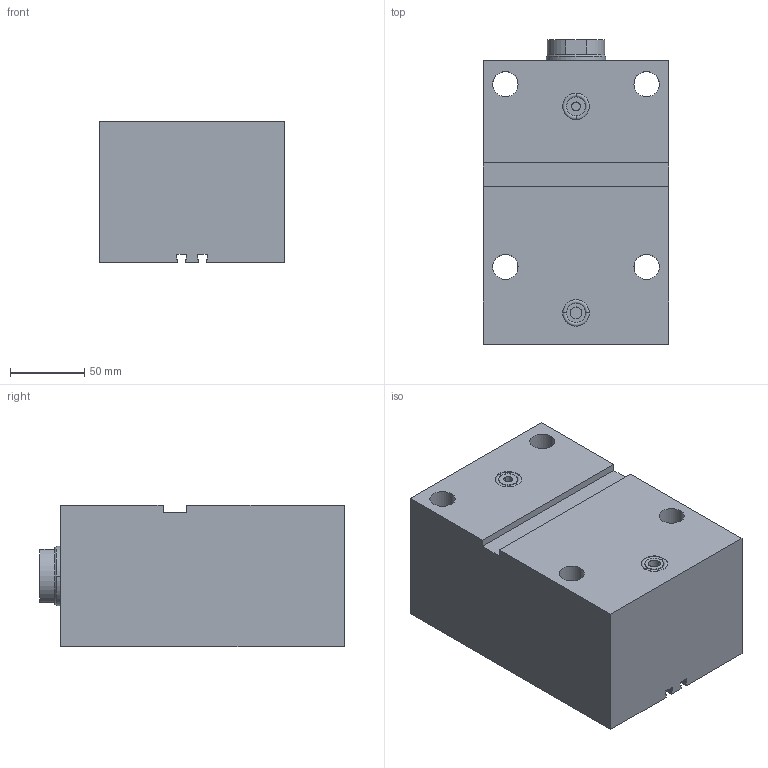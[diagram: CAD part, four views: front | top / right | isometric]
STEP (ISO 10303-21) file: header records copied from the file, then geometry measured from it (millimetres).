
FILE_DESCRIPTION (( 'STEP AP203' ), '1' );
FILE_NAME ('GERMA_Blockzylinder_703-063-100.STEP', '2016-07-26T09:38:08', ( '' ), ( '' ), 'SwSTEP 2.0', 'SolidWorks 2015', '' );
FILE_SCHEMA (( 'CONFIG_CONTROL_DESIGN' ));
Length unit declared in the file: millimetre
Products named in the file (3): GH-700-063_GH-703-063-100; Kolben_MT 70x-063_Kolben_MT DU.63-Hub100-IG; GERMA_Blockzylinder_703-063-100
Assembly tree (2 placements, depth 2):
  GERMA_Blockzylinder_703-063-100
    GH-700-063_GH-703-063-100
    Kolben_MT 70x-063_Kolben_MT DU.63-Hub100-IG
Bounding box: 125 x 205 x 95 mm (x, y, z)
Volume: 1964507.1 mm3; surface area: 204807.8 mm2
Topology: 2 solids, 2 shells, 104 faces, 242 edges, 150 vertices
Faces by surface type: cylinder 43, plane 43, cone 14, torus 4
Entity records: 3246 total; most frequent: DIRECTION 555, CARTESIAN_POINT 495, ORIENTED_EDGE 472, EDGE_CURVE 236, AXIS2_PLACEMENT_3D 210, VERTEX_POINT 150, VECTOR 135, LINE 135
